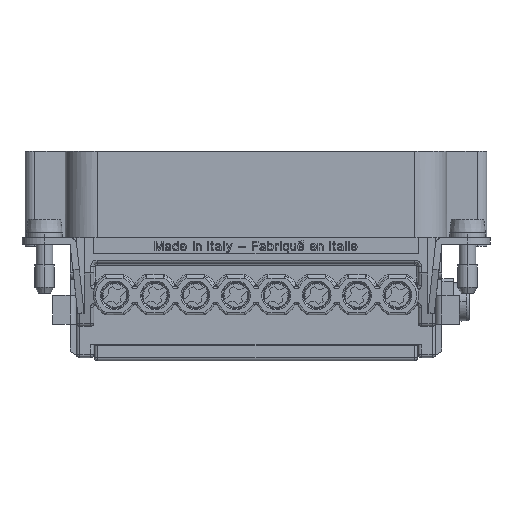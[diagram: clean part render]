
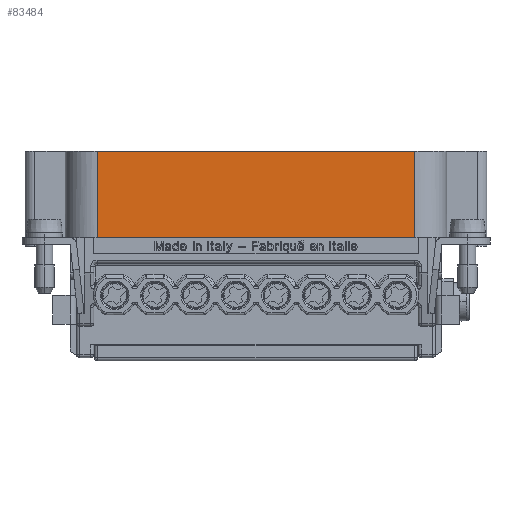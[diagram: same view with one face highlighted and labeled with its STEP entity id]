
A CAD part, front view. The second image highlights one B-rep face of the part: STEP entity #83484.
In plain terms, the highlighted planar face has unit normal (0, -1, 0).
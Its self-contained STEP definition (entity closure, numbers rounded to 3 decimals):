
#24307 = VERTEX_POINT ( 'NONE', #155633 ) ;
#24315 = EDGE_CURVE ( 'NONE', #24307, #24319, #155607, .T. ) ;
#24319 = VERTEX_POINT ( 'NONE', #155596 ) ;
#83314 = ORIENTED_EDGE ( 'NONE', *, *, #83318, .F. ) ;
#83318 = EDGE_CURVE ( 'NONE', #83322, #83501, #157060, .T. ) ;
#83322 = VERTEX_POINT ( 'NONE', #157043 ) ;
#83326 = ORIENTED_EDGE ( 'NONE', *, *, #83331, .F. ) ;
#83331 = EDGE_CURVE ( 'NONE', #24319, #83322, #157001, .T. ) ;
#83335 = ORIENTED_EDGE ( 'NONE', *, *, #24315, .F. ) ;
#83484 = ADVANCED_FACE ( 'NONE', ( #158171 ), #158080, .F. ) ;
#83488 = EDGE_LOOP ( 'NONE', ( #83493, #83314, #83326, #83335 ) ) ;
#83493 = ORIENTED_EDGE ( 'NONE', *, *, #83496, .F. ) ;
#83496 = EDGE_CURVE ( 'NONE', #83501, #24307, #158228, .T. ) ;
#83501 = VERTEX_POINT ( 'NONE', #158218 ) ;
#155596 = CARTESIAN_POINT ( 'NONE',  ( 54.214, 38.952, 20.7 ) ) ;
#155602 = DIRECTION ( 'NONE',  ( -1., 0., 0. ) ) ;
#155603 = VECTOR ( 'NONE', #155602, 1000. ) ;
#155605 = CARTESIAN_POINT ( 'NONE',  ( 106.964, 38.952, 20.7 ) ) ;
#155607 = LINE ( 'NONE', #155605, #155603 ) ;
#155633 = CARTESIAN_POINT ( 'NONE',  ( 103.714, 38.952, 20.7 ) ) ;
#156995 = DIRECTION ( 'NONE',  ( 0., 0., 1. ) ) ;
#156996 = VECTOR ( 'NONE', #156995, 1000. ) ;
#157000 = CARTESIAN_POINT ( 'NONE',  ( 54.214, 38.952, 34.5 ) ) ;
#157001 = LINE ( 'NONE', #157000, #156996 ) ;
#157043 = CARTESIAN_POINT ( 'NONE',  ( 54.214, 38.952, 34.2 ) ) ;
#157051 = DIRECTION ( 'NONE',  ( 1., 0., 0. ) ) ;
#157052 = VECTOR ( 'NONE', #157051, 1000. ) ;
#157056 = CARTESIAN_POINT ( 'NONE',  ( 99.814, 38.952, 34.2 ) ) ;
#157060 = LINE ( 'NONE', #157056, #157052 ) ;
#158059 = DIRECTION ( 'NONE',  ( 0., 0., 1. ) ) ;
#158062 = DIRECTION ( 'NONE',  ( 0., 1., 0. ) ) ;
#158066 = CARTESIAN_POINT ( 'NONE',  ( 106.964, 38.952, 21. ) ) ;
#158068 = AXIS2_PLACEMENT_3D ( 'NONE', #158066, #158062, #158059 ) ;
#158080 = PLANE ( 'NONE',  #158068 ) ;
#158171 = FACE_OUTER_BOUND ( 'NONE', #83488, .T. ) ;
#158218 = CARTESIAN_POINT ( 'NONE',  ( 103.714, 38.952, 34.2 ) ) ;
#158221 = DIRECTION ( 'NONE',  ( 0., 0., -1. ) ) ;
#158223 = VECTOR ( 'NONE', #158221, 1000. ) ;
#158225 = CARTESIAN_POINT ( 'NONE',  ( 103.714, 38.952, 34.5 ) ) ;
#158228 = LINE ( 'NONE', #158225, #158223 ) ;
